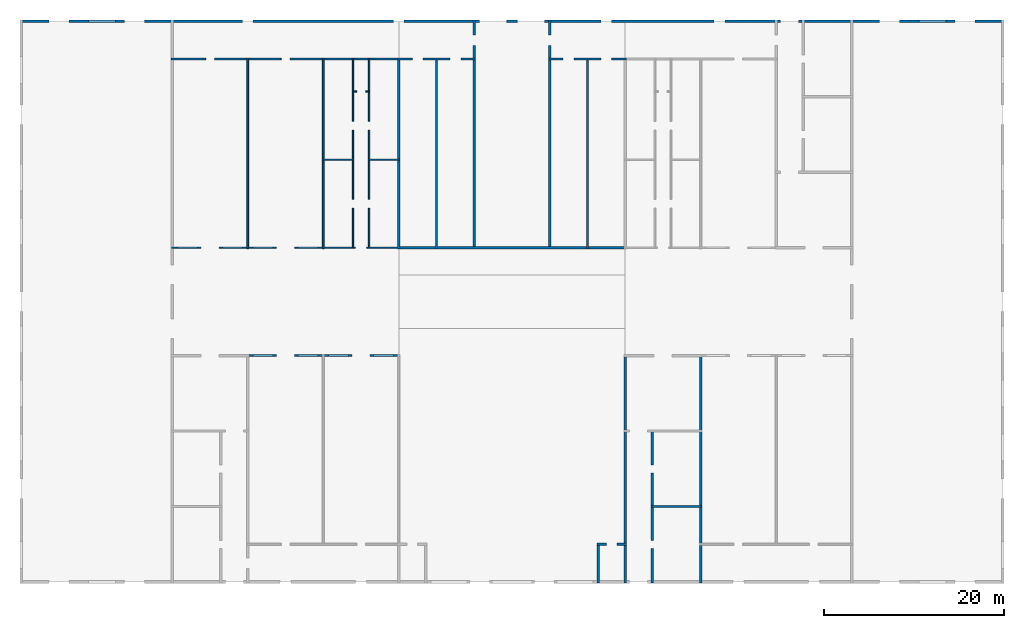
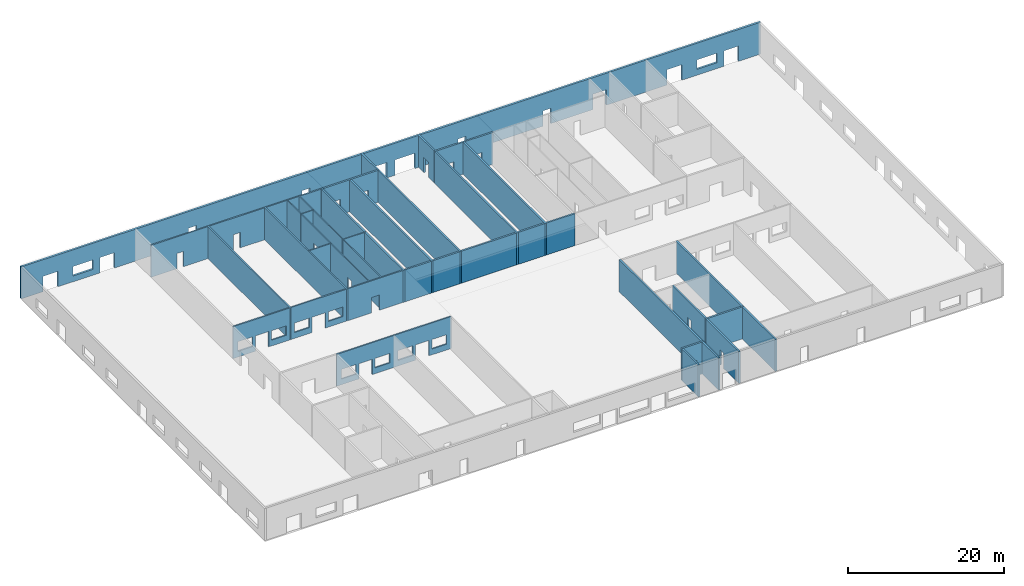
# One storey, part 2 of 3: 25 walls, 53 openings.
"""IFC4 building model written with IfcOpenShell, lengths in millimetres."""

import ifcopenshell
import ifcopenshell.guid

model = None  # the IFC model being written
_history = None  # IfcOwnerHistory: only IFC2X3 demands one
_inside = {}  # id of a spatial element -> (the spatial element, [elements in it])
_under = {}  # id of a project, library or spatial element -> (it, [spatial elements below it])
_declared = {}  # id of a project -> (the project, [libraries it declares])
_typed = {}  # id of a type object -> (the type object, [elements of that type])
_made_of = {}  # id of a material, layer set ... -> (it, [elements and type objects made of it])


def new_model(schema):
    """Start an empty IFC model of exactly this schema.

    Asked for "IFC4X3", IfcOpenShell would pick the latest addendum, in which some entities
    have other attributes; the version numbers below select the first issue.
    IFC2X3 requires an IfcOwnerHistory on every rooted entity: one is made here for all.
    """
    global model, _history
    if schema == "IFC4X3":
        model = ifcopenshell.file(schema_version=(4, 3, 0, 0))
    else:
        model = ifcopenshell.file(schema=schema)
    _inside.clear()
    _under.clear()
    _declared.clear()
    _typed.clear()
    _made_of.clear()
    _history = None
    if model.schema == "IFC2X3":
        org = make("IfcOrganization", Name="unknown")
        user = make(
            "IfcPersonAndOrganization",
            ThePerson=make("IfcPerson", FamilyName="unknown"),
            TheOrganization=org,
        )
        app = make(
            "IfcApplication",
            ApplicationDeveloper=org,
            Version="unknown",
            ApplicationFullName="unknown",
            ApplicationIdentifier="unknown",
        )
        _history = make(
            "IfcOwnerHistory",
            OwningUser=user,
            OwningApplication=app,
            ChangeAction="ADDED",
            CreationDate=0,
        )
    return model


def make(cls, **values):
    """One entity of the class cls with the attributes given. An attribute that is None is left unset."""
    return model.create_entity(
        cls, **{name: value for name, value in values.items() if value is not None}
    )


def rooted(cls, **values):
    """An entity with a GlobalId (a new one), such as an element, a storey or a relation."""
    return make(cls, GlobalId=ifcopenshell.guid.new(), OwnerHistory=_history, **values)


def si_unit(unit_type, name, prefix=None):
    """IfcSIUnit, for example si_unit("LENGTHUNIT", "METRE", prefix="MILLI")."""
    return make("IfcSIUnit", UnitType=unit_type, Prefix=prefix, Name=name)


def assignment(units):
    """IfcUnitAssignment: the units of a project."""
    return None if units is None else make("IfcUnitAssignment", Units=units)


def point(xyz):
    """IfcCartesianPoint."""
    return None if xyz is None else make("IfcCartesianPoint", Coordinates=xyz)


def direction(xyz):
    """IfcDirection."""
    return None if xyz is None else make("IfcDirection", DirectionRatios=xyz)


def frame(location, z_axis=None, x_axis=None):
    """IfcAxis2Placement3D, a coordinate frame: its origin and axes. An axis left out is left unset."""
    return make(
        "IfcAxis2Placement3D",
        Location=point(location),
        Axis=direction(z_axis),
        RefDirection=direction(x_axis),
    )


def origin_with_axes():
    """The frame at (0, 0, 0) with the z axis (0, 0, 1) and the x axis (1, 0, 0) written out."""
    return frame((0.0, 0.0, 0.0), z_axis=(0.0, 0.0, 1.0), x_axis=(1.0, 0.0, 0.0))


def place(relative_to, where):
    """IfcLocalPlacement: puts the frame where relative to a parent placement (None: the world)."""
    return make(
        "IfcLocalPlacement", PlacementRelTo=relative_to, RelativePlacement=where
    )


def context(
    kind, dimensions, precision=None, world=None, true_north=None, identifier=None
):
    """IfcGeometricRepresentationContext, for example the 3D "Model" context."""
    return make(
        "IfcGeometricRepresentationContext",
        ContextIdentifier=identifier,
        ContextType=kind,
        CoordinateSpaceDimension=dimensions,
        Precision=precision,
        WorldCoordinateSystem=world,
        TrueNorth=true_north,
    )


def subcontext(parent, identifier, kind, view, scale=None):
    """IfcGeometricRepresentationSubContext, for example "Body" below "Model"."""
    return make(
        "IfcGeometricRepresentationSubContext",
        ContextIdentifier=identifier,
        ContextType=kind,
        ParentContext=parent,
        TargetScale=scale,
        TargetView=view,
    )


def project(units=None, contexts=None):
    """IfcProject with its units and contexts."""
    return rooted(
        "IfcProject",
        Name="project",
        RepresentationContexts=contexts,
        UnitsInContext=assignment(units),
    )


def spatial(cls, under=None, at=None, **own):
    """A site, building, storey or space (cls), placed at a placement, below another one or the project."""
    s = rooted(cls, ObjectPlacement=at, **own)
    if under is not None:
        _under.setdefault(under.id(), (under, []))[1].append(s)
    return s


def point_list(points):
    """IfcCartesianPointList2D or 3D."""
    cls = (
        "IfcCartesianPointList2D" if len(points[0]) == 2 else "IfcCartesianPointList3D"
    )
    return make(cls, CoordList=points)


def indexed_curve(points, segments=None, self_intersect=None):
    """IfcIndexedPolyCurve: lines and arcs through numbered points (the first is 1)."""
    return make(
        "IfcIndexedPolyCurve",
        Points=point_list(points),
        Segments=segments,
        SelfIntersect=self_intersect,
    )


def outline(outer, holes=None, kind="AREA"):
    """IfcArbitraryClosedProfileDef: a profile drawn as a closed curve; with holes, ...WithVoids."""
    if holes is None:
        return make("IfcArbitraryClosedProfileDef", ProfileType=kind, OuterCurve=outer)
    return make(
        "IfcArbitraryProfileDefWithVoids",
        ProfileType=kind,
        OuterCurve=outer,
        InnerCurves=holes,
    )


def extrude(swept, where, along, depth):
    """IfcExtrudedAreaSolid: the profile swept, set in the frame where, extruded along a direction by depth."""
    return make(
        "IfcExtrudedAreaSolid",
        SweptArea=swept,
        Position=where,
        ExtrudedDirection=direction(along),
        Depth=depth,
    )


def shape(context_of_items, identifier, shape_type, items):
    """IfcShapeRepresentation: the items that make up one representation, for example the "Body"."""
    return make(
        "IfcShapeRepresentation",
        ContextOfItems=context_of_items,
        RepresentationIdentifier=identifier,
        RepresentationType=shape_type,
        Items=items,
    )


def made_of(thing, what):
    """Note that an element or type object is made of a material, layer set ...; save() writes the relation."""
    if what is not None:
        _made_of.setdefault(what.id(), (what, []))[1].append(thing)
    return thing


def type_object(cls, material=None, **own):
    """A type object (cls), such as IfcWallType, which elements share."""
    return made_of(rooted(cls, **own), material)


def element(
    cls,
    number,
    at=None,
    inside=None,
    cuts=None,
    type_object=None,
    material=None,
    context=None,
    identifier="Body",
    shape_type=None,
    held_by="IfcProductDefinitionShape",
    body=None,
    shapes=None,
    **own,
):
    """One element of the class cls, such as IfcWall. Its Tag is "e" and its number.

    at: its placement. inside: the storey or other place that contains it. cuts: it is an
    opening in that element (IfcRelVoidsElement). A single representation is given by context,
    identifier, shape_type and body (its items); several are given by shapes. held_by: the class
    of the entity that holds the representations. save() writes the other relations.
    """
    e = rooted(cls, Tag="e%d" % number, ObjectPlacement=at, **own)
    if body is not None:
        shapes = [shape(context, identifier, shape_type, body)]
    if shapes is not None:
        e.Representation = make(held_by, Representations=shapes)
    if inside is not None:
        _inside.setdefault(inside.id(), (inside, []))[1].append(e)
    if cuts is not None:
        rooted(
            "IfcRelVoidsElement", RelatingBuildingElement=cuts, RelatedOpeningElement=e
        )
    if type_object is not None:
        _typed.setdefault(type_object.id(), (type_object, []))[1].append(e)
    return made_of(e, material)


def aggregate(whole, parts):
    """IfcRelAggregates: a whole, such as a stair, and the parts it consists of."""
    return rooted("IfcRelAggregates", RelatingObject=whole, RelatedObjects=parts)


def save(model, path):
    """Write the relations noted so far, then the file.

    IfcRelAggregates (storeys below a building ...), IfcRelContainedInSpatialStructure (elements
    in a storey), IfcRelDefinesByType, IfcRelAssociatesMaterial and IfcRelDeclares: one each for
    every whole, place, type object, material and project.
    """
    for whole, parts in _under.values():
        aggregate(whole, parts)
    for where, things in _inside.values():
        rooted(
            "IfcRelContainedInSpatialStructure",
            RelatedElements=things,
            RelatingStructure=where,
        )
    for kind, things in _typed.values():
        rooted("IfcRelDefinesByType", RelatedObjects=things, RelatingType=kind)
    for what, things in _made_of.values():
        rooted("IfcRelAssociatesMaterial", RelatedObjects=things, RelatingMaterial=what)
    for by, libraries in _declared.values():
        rooted("IfcRelDeclares", RelatingContext=by, RelatedDefinitions=libraries)
    model.write(path)


model = new_model("IFC4")

# Units and contexts
model_context = context("Model", 3, precision=1e-05, world=origin_with_axes())
body_context = subcontext(model_context, "Body", "Model", "MODEL_VIEW")
ifc_project = project(units=[si_unit("AREAUNIT", "SQUARE_METRE"), si_unit("VOLUMEUNIT", "CUBIC_METRE"), si_unit("LENGTHUNIT", "METRE", prefix="MILLI")], contexts=[model_context])

# Site, building, storey
site = spatial("IfcSite", under=ifc_project, Name="PIN 00000000 (sample)")
building = spatial("IfcBuilding", under=site, Name="Sample Shopping Mall")
storey = spatial("IfcBuildingStorey", under=building, Name="Ground Floor", Elevation=0.0)

# Wall, openings
wall_type_1 = type_object("IfcWallType", Name="WT-300", PredefinedType="SOLIDWALL")
wall_1_placement = place(None, frame((5250.0, 77849.99999999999, 0.0), z_axis=(0.0, 0.0, 1.0), x_axis=(1.0, 0.0, 0.0)))
wall_1 = element("IfcWall", 1, at=wall_1_placement, inside=storey, type_object=wall_type_1, Name="W29", context=body_context, shape_type="SweptSolid", body=[
    extrude(outline(indexed_curve([(0.0, 0.0), (0.0, 300.0), (109499.99999999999, 300.0), (109499.99999999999, 0.0), (0.0, 0.0)], self_intersect=False)), origin_with_axes(), (0.0, 0.0, 1.0), 5000.0),
])
opening_1_placement = place(wall_1_placement, frame((3250.0, -99.9999999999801, 0.0), z_axis=(0.0, 0.0, 1.0), x_axis=(1.0, 0.0, 0.0)))
element("IfcOpeningElement", 2, at=opening_1_placement, cuts=wall_1, Name="D12-opening", context=body_context, shape_type="SweptSolid", body=[
    extrude(outline(indexed_curve([(0.0, 0.0), (0.0, 500.0), (1100.0, 500.0), (1100.0, 0.0), (0.0, 0.0)], self_intersect=False)), origin_with_axes(), (0.0, 0.0, 1.0), 2400.0),
])
opening_2_placement = place(wall_1_placement, frame((4350.000000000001, -99.9999999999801, 0.0), z_axis=(0.0, 0.0, 1.0), x_axis=(1.0, 0.0, 0.0)))
element("IfcOpeningElement", 3, at=opening_2_placement, cuts=wall_1, Name="-opening", context=body_context, shape_type="SweptSolid", body=[
    extrude(outline(indexed_curve([(0.0, 0.0), (0.0, 500.0), (1100.0, 500.0), (1100.0, 0.0), (0.0, 0.0)], self_intersect=False)), origin_with_axes(), (0.0, 0.0, 1.0), 2400.0),
])
opening_3_placement = place(wall_1_placement, frame((11649.999999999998, -99.9999999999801, 0.0), z_axis=(0.0, 0.0, 1.0), x_axis=(1.0, 0.0, 0.0)))
element("IfcOpeningElement", 4, at=opening_3_placement, cuts=wall_1, Name="D13-opening", context=body_context, shape_type="SweptSolid", body=[
    extrude(outline(indexed_curve([(0.0, 0.0), (0.0, 500.0), (1100.0, 500.0), (1100.0, 0.0), (0.0, 0.0)], self_intersect=False)), origin_with_axes(), (0.0, 0.0, 1.0), 2400.0),
])
opening_4_placement = place(wall_1_placement, frame((12750.0, -99.9999999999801, 0.0), z_axis=(0.0, 0.0, 1.0), x_axis=(1.0, 0.0, 0.0)))
element("IfcOpeningElement", 5, at=opening_4_placement, cuts=wall_1, Name="-opening", context=body_context, shape_type="SweptSolid", body=[
    extrude(outline(indexed_curve([(0.0, 0.0), (0.0, 500.0), (1100.0, 500.0), (1100.0, 0.0), (0.0, 0.0)], self_intersect=False)), origin_with_axes(), (0.0, 0.0, 1.0), 2400.0),
])
opening_5_placement = place(wall_1_placement, frame((95650.0, -99.9999999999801, 0.0), z_axis=(0.0, 0.0, 1.0), x_axis=(1.0, 0.0, 0.0)))
element("IfcOpeningElement", 6, at=opening_5_placement, cuts=wall_1, Name="D21-opening", context=body_context, shape_type="SweptSolid", body=[
    extrude(outline(indexed_curve([(0.0, 0.0), (0.0, 500.0), (1100.0, 500.0), (1100.0, 0.0), (0.0, 0.0)], self_intersect=False)), origin_with_axes(), (0.0, 0.0, 1.0), 2400.0),
])
opening_6_placement = place(wall_1_placement, frame((96750.0, -99.9999999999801, 0.0), z_axis=(0.0, 0.0, 1.0), x_axis=(1.0, 0.0, 0.0)))
element("IfcOpeningElement", 7, at=opening_6_placement, cuts=wall_1, Name="-opening", context=body_context, shape_type="SweptSolid", body=[
    extrude(outline(indexed_curve([(0.0, 0.0), (0.0, 500.0), (1100.0, 500.0), (1100.0, 0.0), (0.0, 0.0)], self_intersect=False)), origin_with_axes(), (0.0, 0.0, 1.0), 2400.0),
])
opening_7_placement = place(wall_1_placement, frame((104050.00000000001, -99.9999999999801, 0.0), z_axis=(0.0, 0.0, 1.0), x_axis=(1.0, 0.0, 0.0)))
element("IfcOpeningElement", 8, at=opening_7_placement, cuts=wall_1, Name="D22-opening", context=body_context, shape_type="SweptSolid", body=[
    extrude(outline(indexed_curve([(0.0, 0.0), (0.0, 500.0), (1100.0, 500.0), (1100.0, 0.0), (0.0, 0.0)], self_intersect=False)), origin_with_axes(), (0.0, 0.0, 1.0), 2400.0),
])
opening_8_placement = place(wall_1_placement, frame((105150.0, -99.9999999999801, 0.0), z_axis=(0.0, 0.0, 1.0), x_axis=(1.0, 0.0, 0.0)))
element("IfcOpeningElement", 9, at=opening_8_placement, cuts=wall_1, Name="-opening", context=body_context, shape_type="SweptSolid", body=[
    extrude(outline(indexed_curve([(0.0, 0.0), (0.0, 500.0), (1100.0, 500.0), (1100.0, 0.0), (0.0, 0.0)], self_intersect=False)), origin_with_axes(), (0.0, 0.0, 1.0), 2400.0),
])
opening_9_placement = place(wall_1_placement, frame((24750.0, -99.9999999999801, 0.0), z_axis=(0.0, 0.0, 1.0), x_axis=(1.0, 0.0, 0.0)))
element("IfcOpeningElement", 10, at=opening_9_placement, cuts=wall_1, Name="D27-opening", context=body_context, shape_type="SweptSolid", body=[
    extrude(outline(indexed_curve([(0.0, 0.0), (0.0, 500.0), (1200.0, 500.0), (1200.0, 0.0), (0.0, 0.0)], self_intersect=False)), origin_with_axes(), (0.0, 0.0, 1.0), 2400.0),
])
opening_10_placement = place(wall_1_placement, frame((41549.99999999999, -99.9999999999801, 0.0), z_axis=(0.0, 0.0, 1.0), x_axis=(1.0, 0.0, 0.0)))
element("IfcOpeningElement", 11, at=opening_10_placement, cuts=wall_1, Name="D28-opening", context=body_context, shape_type="SweptSolid", body=[
    extrude(outline(indexed_curve([(0.0, 0.0), (0.0, 500.0), (1200.0, 500.0), (1200.0, 0.0), (0.0, 0.0)], self_intersect=False)), origin_with_axes(), (0.0, 0.0, 1.0), 2400.0),
])
opening_11_placement = place(wall_1_placement, frame((64650.00000000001, -99.9999999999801, 0.0), z_axis=(0.0, 0.0, 1.0), x_axis=(1.0, 0.0, 0.0)))
element("IfcOpeningElement", 12, at=opening_11_placement, cuts=wall_1, Name="D29-opening", context=body_context, shape_type="SweptSolid", body=[
    extrude(outline(indexed_curve([(0.0, 0.0), (0.0, 500.0), (1200.0, 500.0), (1200.0, 0.0), (0.0, 0.0)], self_intersect=False)), origin_with_axes(), (0.0, 0.0, 1.0), 2400.0),
])
opening_12_placement = place(wall_1_placement, frame((77250.0, -99.9999999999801, 0.0), z_axis=(0.0, 0.0, 1.0), x_axis=(1.0, 0.0, 0.0)))
element("IfcOpeningElement", 13, at=opening_12_placement, cuts=wall_1, Name="D30-opening", context=body_context, shape_type="SweptSolid", body=[
    extrude(outline(indexed_curve([(0.0, 0.0), (0.0, 500.0), (1200.0, 500.0), (1200.0, 0.0), (0.0, 0.0)], self_intersect=False)), origin_with_axes(), (0.0, 0.0, 1.0), 2400.0),
])
opening_13_placement = place(wall_1_placement, frame((51150.0, -99.9999999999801, 0.0), z_axis=(0.0, 0.0, 1.0), x_axis=(1.0, 0.0, 0.0)))
element("IfcOpeningElement", 14, at=opening_13_placement, cuts=wall_1, Name="D62-opening", context=body_context, shape_type="SweptSolid", body=[
    extrude(outline(indexed_curve([(0.0, 0.0), (0.0, 500.0), (1500.0, 500.0), (1500.0, 0.0), (0.0, 0.0)], self_intersect=False)), origin_with_axes(), (0.0, 0.0, 1.0), 2400.0),
])
opening_14_placement = place(wall_1_placement, frame((52650.0, -99.9999999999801, 0.0), z_axis=(0.0, 0.0, 1.0), x_axis=(1.0, 0.0, 0.0)))
element("IfcOpeningElement", 15, at=opening_14_placement, cuts=wall_1, Name="-opening", context=body_context, shape_type="SweptSolid", body=[
    extrude(outline(indexed_curve([(0.0, 0.0), (0.0, 500.0), (1500.0, 500.0), (1500.0, 0.0), (0.0, 0.0)], self_intersect=False)), origin_with_axes(), (0.0, 0.0, 1.0), 2400.0),
])
opening_15_placement = place(wall_1_placement, frame((55350.0, -99.9999999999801, 0.0), z_axis=(0.0, 0.0, 1.0), x_axis=(1.0, 0.0, 0.0)))
element("IfcOpeningElement", 16, at=opening_15_placement, cuts=wall_1, Name="D63-opening", context=body_context, shape_type="SweptSolid", body=[
    extrude(outline(indexed_curve([(0.0, 0.0), (0.0, 500.0), (1500.0, 500.0), (1500.0, 0.0), (0.0, 0.0)], self_intersect=False)), origin_with_axes(), (0.0, 0.0, 1.0), 2400.0),
])
opening_16_placement = place(wall_1_placement, frame((56850.0, -99.9999999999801, 0.0), z_axis=(0.0, 0.0, 1.0), x_axis=(1.0, 0.0, 0.0)))
element("IfcOpeningElement", 17, at=opening_16_placement, cuts=wall_1, Name="-opening", context=body_context, shape_type="SweptSolid", body=[
    extrude(outline(indexed_curve([(0.0, 0.0), (0.0, 500.0), (1500.0, 500.0), (1500.0, 0.0), (0.0, 0.0)], self_intersect=False)), origin_with_axes(), (0.0, 0.0, 1.0), 2400.0),
])
opening_17_placement = place(wall_1_placement, frame((84650.0, -99.9999999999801, 0.0), z_axis=(0.0, 0.0, 1.0), x_axis=(1.0, 0.0, 0.0)))
element("IfcOpeningElement", 18, at=opening_17_placement, cuts=wall_1, Name="D78-opening", context=body_context, shape_type="SweptSolid", body=[
    extrude(outline(indexed_curve([(0.0, 0.0), (0.0, 500.0), (1000.0, 500.0), (1000.0, 0.0), (0.0, 0.0)], self_intersect=False)), origin_with_axes(), (0.0, 0.0, 1.0), 2400.0),
])
opening_18_placement = place(wall_1_placement, frame((85650.0, -99.9999999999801, 0.0), z_axis=(0.0, 0.0, 1.0), x_axis=(1.0, 0.0, 0.0)))
element("IfcOpeningElement", 19, at=opening_18_placement, cuts=wall_1, Name="-opening", context=body_context, shape_type="SweptSolid", body=[
    extrude(outline(indexed_curve([(0.0, 0.0), (0.0, 500.0), (1000.0, 500.0), (1000.0, 0.0), (0.0, 0.0)], self_intersect=False)), origin_with_axes(), (0.0, 0.0, 1.0), 2400.0),
])
opening_19_placement = place(wall_1_placement, frame((7650.0, -99.9999999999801, 900.0), z_axis=(0.0, 0.0, 1.0), x_axis=(1.0, 0.0, 0.0)))
element("IfcOpeningElement", 20, at=opening_19_placement, cuts=wall_1, Name="-opening", context=body_context, shape_type="SweptSolid", body=[
    extrude(outline(indexed_curve([(0.0, 0.0), (0.0, 500.0), (3000.0, 500.0), (3000.0, 0.0), (0.0, 0.0)], self_intersect=False)), origin_with_axes(), (0.0, 0.0, 1.0), 1500.0),
])
opening_20_placement = place(wall_1_placement, frame((100050.00000000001, -99.9999999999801, 900.0), z_axis=(0.0, 0.0, 1.0), x_axis=(1.0, 0.0, 0.0)))
element("IfcOpeningElement", 21, at=opening_20_placement, cuts=wall_1, Name="-opening", context=body_context, shape_type="SweptSolid", body=[
    extrude(outline(indexed_curve([(0.0, 0.0), (0.0, 500.0), (3000.0, 500.0), (3000.0, 0.0), (0.0, 0.0)], self_intersect=False)), origin_with_axes(), (0.0, 0.0, 1.0), 1500.0),
])

wall_type_2 = type_object("IfcWallType", Name="WT-200", PredefinedType="SOLIDWALL")
wall_2_placement = place(None, frame((30500.0, 40699.99999999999, 0.0), z_axis=(0.0, 0.0, 1.0), x_axis=(1.0, 0.0, 0.0)))
wall_2 = element("IfcWall", 22, at=wall_2_placement, inside=storey, type_object=wall_type_2, Name="W10", context=body_context, shape_type="SweptSolid", body=[
    extrude(outline(indexed_curve([(0.0, 0.0), (0.0, 200.0), (16999.999999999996, 200.0), (16999.999999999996, 0.0), (0.0, 0.0)], self_intersect=False)), origin_with_axes(), (0.0, 0.0, 1.0), 5000.0),
])
opening_21_placement = place(wall_2_placement, frame((3299.9999999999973, -100.00000000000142, 0.0), z_axis=(0.0, 0.0, 1.0), x_axis=(1.0, 0.0, 0.0)))
element("IfcOpeningElement", 23, at=opening_21_placement, cuts=wall_2, Name="D37-opening", context=body_context, shape_type="SweptSolid", body=[
    extrude(outline(indexed_curve([(0.0, 0.0), (0.0, 400.0), (1000.0, 400.0), (1000.0, 0.0), (0.0, 0.0)], self_intersect=False)), origin_with_axes(), (0.0, 0.0, 1.0), 2400.0),
])
opening_22_placement = place(wall_2_placement, frame((4300.000000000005, -100.00000000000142, 0.0), z_axis=(0.0, 0.0, 1.0), x_axis=(1.0, 0.0, 0.0)))
element("IfcOpeningElement", 24, at=opening_22_placement, cuts=wall_2, Name="-opening", context=body_context, shape_type="SweptSolid", body=[
    extrude(outline(indexed_curve([(0.0, 0.0), (0.0, 400.0), (1000.0, 400.0), (1000.0, 0.0), (0.0, 0.0)], self_intersect=False)), origin_with_axes(), (0.0, 0.0, 1.0), 2400.0),
])
opening_23_placement = place(wall_2_placement, frame((11700.000000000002, -100.00000000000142, 0.0), z_axis=(0.0, 0.0, 1.0), x_axis=(1.0, 0.0, 0.0)))
element("IfcOpeningElement", 25, at=opening_23_placement, cuts=wall_2, Name="D39-opening", context=body_context, shape_type="SweptSolid", body=[
    extrude(outline(indexed_curve([(0.0, 0.0), (0.0, 400.0), (1000.0, 400.0), (1000.0, 0.0), (0.0, 0.0)], self_intersect=False)), origin_with_axes(), (0.0, 0.0, 1.0), 2400.0),
])
opening_24_placement = place(wall_2_placement, frame((12700.000000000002, -100.00000000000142, 0.0), z_axis=(0.0, 0.0, 1.0), x_axis=(1.0, 0.0, 0.0)))
element("IfcOpeningElement", 26, at=opening_24_placement, cuts=wall_2, Name="-opening", context=body_context, shape_type="SweptSolid", body=[
    extrude(outline(indexed_curve([(0.0, 0.0), (0.0, 400.0), (1000.0, 400.0), (1000.0, 0.0), (0.0, 0.0)], self_intersect=False)), origin_with_axes(), (0.0, 0.0, 1.0), 2400.0),
])
opening_25_placement = place(wall_2_placement, frame((700.0000000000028, -100.00000000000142, 900.0), z_axis=(0.0, 0.0, 1.0), x_axis=(1.0, 0.0, 0.0)))
element("IfcOpeningElement", 27, at=opening_25_placement, cuts=wall_2, Name="-opening", context=body_context, shape_type="SweptSolid", body=[
    extrude(outline(indexed_curve([(0.0, 0.0), (0.0, 400.0), (2200.0, 400.0), (2200.0, 0.0), (0.0, 0.0)], self_intersect=False)), origin_with_axes(), (0.0, 0.0, 1.0), 1500.0),
])
opening_26_placement = place(wall_2_placement, frame((5700.000000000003, -100.00000000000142, 900.0), z_axis=(0.0, 0.0, 1.0), x_axis=(1.0, 0.0, 0.0)))
element("IfcOpeningElement", 28, at=opening_26_placement, cuts=wall_2, Name="-opening", context=body_context, shape_type="SweptSolid", body=[
    extrude(outline(indexed_curve([(0.0, 0.0), (0.0, 400.0), (2200.0, 400.0), (2200.0, 0.0), (0.0, 0.0)], self_intersect=False)), origin_with_axes(), (0.0, 0.0, 1.0), 1500.0),
])
opening_27_placement = place(wall_2_placement, frame((9100.000000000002, -100.00000000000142, 900.0), z_axis=(0.0, 0.0, 1.0), x_axis=(1.0, 0.0, 0.0)))
element("IfcOpeningElement", 29, at=opening_27_placement, cuts=wall_2, Name="-opening", context=body_context, shape_type="SweptSolid", body=[
    extrude(outline(indexed_curve([(0.0, 0.0), (0.0, 400.0), (2200.0, 400.0), (2200.0, 0.0), (0.0, 0.0)], self_intersect=False)), origin_with_axes(), (0.0, 0.0, 1.0), 1500.0),
])
opening_28_placement = place(wall_2_placement, frame((14100.000000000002, -100.00000000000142, 900.0), z_axis=(0.0, 0.0, 1.0), x_axis=(1.0, 0.0, 0.0)))
element("IfcOpeningElement", 30, at=opening_28_placement, cuts=wall_2, Name="-opening", context=body_context, shape_type="SweptSolid", body=[
    extrude(outline(indexed_curve([(0.0, 0.0), (0.0, 400.0), (2200.0, 400.0), (2200.0, 0.0), (0.0, 0.0)], self_intersect=False)), origin_with_axes(), (0.0, 0.0, 1.0), 1500.0),
])

wall_3_placement = place(None, frame((22099.999999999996, 52699.99999999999, 0.0), z_axis=(0.0, 0.0, 1.0), x_axis=(1.0, 0.0, 0.0)))
wall_3 = element("IfcWall", 31, at=wall_3_placement, inside=storey, type_object=wall_type_2, Name="W13", context=body_context, shape_type="SweptSolid", body=[
    extrude(outline(indexed_curve([(0.0, 0.0), (0.0, 200.0), (25399.999999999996, 200.0), (25399.999999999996, 0.0), (0.0, 0.0)], self_intersect=False)), origin_with_axes(), (0.0, 0.0, 1.0), 5000.0),
])
opening_29_placement = place(wall_3_placement, frame((3300.0000000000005, -100.00000000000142, 0.0), z_axis=(0.0, 0.0, 1.0), x_axis=(1.0, 0.0, 0.0)))
element("IfcOpeningElement", 32, at=opening_29_placement, cuts=wall_3, Name="D50-opening", context=body_context, shape_type="SweptSolid", body=[
    extrude(outline(indexed_curve([(0.0, 0.0), (0.0, 400.0), (1000.0, 400.0), (1000.0, 0.0), (0.0, 0.0)], self_intersect=False)), origin_with_axes(), (0.0, 0.0, 1.0), 2400.0),
])
opening_30_placement = place(wall_3_placement, frame((4300.000000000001, -100.00000000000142, 0.0), z_axis=(0.0, 0.0, 1.0), x_axis=(1.0, 0.0, 0.0)))
element("IfcOpeningElement", 33, at=opening_30_placement, cuts=wall_3, Name="-opening", context=body_context, shape_type="SweptSolid", body=[
    extrude(outline(indexed_curve([(0.0, 0.0), (0.0, 400.0), (1000.0, 400.0), (1000.0, 0.0), (0.0, 0.0)], self_intersect=False)), origin_with_axes(), (0.0, 0.0, 1.0), 2400.0),
])
opening_31_placement = place(wall_3_placement, frame((11699.999999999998, -100.00000000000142, 0.0), z_axis=(0.0, 0.0, 1.0), x_axis=(1.0, 0.0, 0.0)))
element("IfcOpeningElement", 34, at=opening_31_placement, cuts=wall_3, Name="D52-opening", context=body_context, shape_type="SweptSolid", body=[
    extrude(outline(indexed_curve([(0.0, 0.0), (0.0, 400.0), (1000.0, 400.0), (1000.0, 0.0), (0.0, 0.0)], self_intersect=False)), origin_with_axes(), (0.0, 0.0, 1.0), 2400.0),
])
opening_32_placement = place(wall_3_placement, frame((12700.000000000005, -100.00000000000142, 0.0), z_axis=(0.0, 0.0, 1.0), x_axis=(1.0, 0.0, 0.0)))
element("IfcOpeningElement", 35, at=opening_32_placement, cuts=wall_3, Name="-opening", context=body_context, shape_type="SweptSolid", body=[
    extrude(outline(indexed_curve([(0.0, 0.0), (0.0, 400.0), (1000.0, 400.0), (1000.0, 0.0), (0.0, 0.0)], self_intersect=False)), origin_with_axes(), (0.0, 0.0, 1.0), 2400.0),
])
opening_33_placement = place(wall_3_placement, frame((20499.999999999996, -100.00000000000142, 0.0), z_axis=(0.0, 0.0, 1.0), x_axis=(1.0, 0.0, 0.0)))
element("IfcOpeningElement", 36, at=opening_33_placement, cuts=wall_3, Name="D54-opening", context=body_context, shape_type="SweptSolid", body=[
    extrude(outline(indexed_curve([(0.0, 0.0), (0.0, 400.0), (1200.0, 400.0), (1200.0, 0.0), (0.0, 0.0)], self_intersect=False)), origin_with_axes(), (0.0, 0.0, 1.0), 2400.0),
])
opening_34_placement = place(wall_3_placement, frame((700.0000000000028, -100.00000000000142, 900.0), z_axis=(0.0, 0.0, 1.0), x_axis=(1.0, 0.0, 0.0)))
element("IfcOpeningElement", 37, at=opening_34_placement, cuts=wall_3, Name="-opening", context=body_context, shape_type="SweptSolid", body=[
    extrude(outline(indexed_curve([(0.0, 0.0), (0.0, 400.0), (2200.0, 400.0), (2200.0, 0.0), (0.0, 0.0)], self_intersect=False)), origin_with_axes(), (0.0, 0.0, 1.0), 1500.0),
])
opening_35_placement = place(wall_3_placement, frame((5699.999999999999, -100.00000000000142, 900.0), z_axis=(0.0, 0.0, 1.0), x_axis=(1.0, 0.0, 0.0)))
element("IfcOpeningElement", 38, at=opening_35_placement, cuts=wall_3, Name="-opening", context=body_context, shape_type="SweptSolid", body=[
    extrude(outline(indexed_curve([(0.0, 0.0), (0.0, 400.0), (2200.0, 400.0), (2200.0, 0.0), (0.0, 0.0)], self_intersect=False)), origin_with_axes(), (0.0, 0.0, 1.0), 1500.0),
])
opening_36_placement = place(wall_3_placement, frame((9100.000000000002, -100.00000000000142, 900.0), z_axis=(0.0, 0.0, 1.0), x_axis=(1.0, 0.0, 0.0)))
element("IfcOpeningElement", 39, at=opening_36_placement, cuts=wall_3, Name="-opening", context=body_context, shape_type="SweptSolid", body=[
    extrude(outline(indexed_curve([(0.0, 0.0), (0.0, 400.0), (2200.0, 400.0), (2200.0, 0.0), (0.0, 0.0)], self_intersect=False)), origin_with_axes(), (0.0, 0.0, 1.0), 1500.0),
])
opening_37_placement = place(wall_3_placement, frame((14100.000000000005, -100.00000000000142, 900.0), z_axis=(0.0, 0.0, 1.0), x_axis=(1.0, 0.0, 0.0)))
element("IfcOpeningElement", 40, at=opening_37_placement, cuts=wall_3, Name="-opening", context=body_context, shape_type="SweptSolid", body=[
    extrude(outline(indexed_curve([(0.0, 0.0), (0.0, 400.0), (2200.0, 400.0), (2200.0, 0.0), (0.0, 0.0)], self_intersect=False)), origin_with_axes(), (0.0, 0.0, 1.0), 1500.0),
])

wall_4_placement = place(None, frame((22099.999999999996, 73700.0, 0.0), z_axis=(0.0, 0.0, 1.0), x_axis=(1.0, 0.0, 0.0)))
wall_4 = element("IfcWall", 41, at=wall_4_placement, inside=storey, type_object=wall_type_2, Name="W25", context=body_context, shape_type="SweptSolid", body=[
    extrude(outline(indexed_curve([(0.0, 0.0), (0.0, 200.0), (25399.999999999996, 200.0), (25399.999999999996, 0.0), (0.0, 0.0)], self_intersect=False)), origin_with_axes(), (0.0, 0.0, 1.0), 5000.0),
])
opening_38_placement = place(wall_4_placement, frame((3800.0000000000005, -99.99999999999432, 0.0), z_axis=(0.0, 0.0, 1.0), x_axis=(1.0, 0.0, 0.0)))
element("IfcOpeningElement", 42, at=opening_38_placement, cuts=wall_4, Name="-opening", context=body_context, shape_type="SweptSolid", body=[
    extrude(outline(indexed_curve([(0.0, 0.0), (0.0, 400.0), (1000.0, 400.0), (1000.0, 0.0), (0.0, 0.0)], self_intersect=False)), origin_with_axes(), (0.0, 0.0, 1.0), 2400.0),
])
opening_39_placement = place(wall_4_placement, frame((12200.000000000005, -99.99999999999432, 0.0), z_axis=(0.0, 0.0, 1.0), x_axis=(1.0, 0.0, 0.0)))
element("IfcOpeningElement", 43, at=opening_39_placement, cuts=wall_4, Name="-opening", context=body_context, shape_type="SweptSolid", body=[
    extrude(outline(indexed_curve([(0.0, 0.0), (0.0, 400.0), (1000.0, 400.0), (1000.0, 0.0), (0.0, 0.0)], self_intersect=False)), origin_with_axes(), (0.0, 0.0, 1.0), 2400.0),
])

# Walls
for number, where, z_axis, x_axis, name in (
    (44, (30700.000000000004, 52699.99999999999, 0.0), (0.0, 0.0, 1.0), (6.123233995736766e-17, 1.0, 0.0), "W34"),
    (45, (39100.0, 52699.99999999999, 0.0), (0.0, 0.0, 1.0), (6.123233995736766e-17, 1.0, 0.0), "W36"),
):
    element("IfcWall", number, at=place(None, frame(where, z_axis=z_axis, x_axis=x_axis)), inside=storey, type_object=wall_type_2, Name=name, context=body_context, shape_type="SweptSolid", body=[
        extrude(outline(indexed_curve([(0.0, 0.0), (0.0, 200.0), (21200.0, 200.0), (21200.0, 0.0), (0.0, 0.0)], self_intersect=False)), origin_with_axes(), (0.0, 0.0, 1.0), 5000.0),
    ])

# Wall, opening
wall_type_3 = type_object("IfcWallType", Name="WT-250", PredefinedType="SOLIDWALL")
wall_5_placement = place(None, frame((69475.0, 19675.0, 0.0), z_axis=(0.0, 0.0, 1.0), x_axis=(1.0, 0.0, 0.0)))
wall_5 = element("IfcWall", 46, at=wall_5_placement, inside=storey, type_object=wall_type_3, Name="W3", context=body_context, shape_type="SweptSolid", body=[
    extrude(outline(indexed_curve([(0.0, 0.0), (0.0, 250.0), (3250.0, 250.0), (3250.0, 0.0), (0.0, 0.0)], self_intersect=False)), origin_with_axes(), (0.0, 0.0, 1.0), 5000.0),
])
opening_40_placement = place(wall_5_placement, frame((1024.9999999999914, -100.00000000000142, 0.0), z_axis=(0.0, 0.0, 1.0), x_axis=(1.0, 0.0, 0.0)))
element("IfcOpeningElement", 47, at=opening_40_placement, cuts=wall_5, Name="D02-opening", context=body_context, shape_type="SweptSolid", body=[
    extrude(outline(indexed_curve([(0.0, 0.0), (0.0, 450.0), (1200.0, 450.0), (1200.0, 0.0), (0.0, 0.0)], self_intersect=False)), origin_with_axes(), (0.0, 0.0, 1.0), 2400.0),
])

# Walls
wall_6_placement = place(None, frame((75475.0, 23875.0, 0.0), z_axis=(0.0, 0.0, 1.0), x_axis=(1.0, 0.0, 0.0)))
element("IfcWall", 48, at=wall_6_placement, inside=storey, type_object=wall_type_3, Name="W6", context=body_context, shape_type="SweptSolid", body=[
    extrude(outline(indexed_curve([(0.0, 0.0), (0.0, 250.0), (5650.0000000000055, 250.0), (5650.0000000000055, 0.0), (0.0, 0.0)], self_intersect=False)), origin_with_axes(), (0.0, 0.0, 1.0), 5000.0),
])
wall_7_placement = place(None, frame((47275.0, 52674.99999999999, 0.0), z_axis=(0.0, 0.0, 1.0), x_axis=(1.0, 0.0, 0.0)))
element("IfcWall", 49, at=wall_7_placement, inside=storey, type_object=wall_type_3, Name="W14", context=body_context, shape_type="SweptSolid", body=[
    extrude(outline(indexed_curve([(0.0, 0.0), (0.0, 250.0), (25449.999999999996, 250.0), (25449.999999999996, 0.0), (0.0, 0.0)], self_intersect=False)), origin_with_axes(), (0.0, 0.0, 1.0), 5000.0),
])

# Wall, openings
wall_8_placement = place(None, frame((47275.0, 73675.0, 0.0), z_axis=(0.0, 0.0, 1.0), x_axis=(1.0, 0.0, 0.0)))
wall_8 = element("IfcWall", 50, at=wall_8_placement, inside=storey, type_object=wall_type_3, Name="W26", context=body_context, shape_type="SweptSolid", body=[
    extrude(outline(indexed_curve([(0.0, 0.0), (0.0, 250.0), (8649.999999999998, 250.0), (8649.999999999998, 0.0), (0.0, 0.0)], self_intersect=False)), origin_with_axes(), (0.0, 0.0, 1.0), 5000.0),
])
opening_41_placement = place(wall_8_placement, frame((1625.0, -99.99999999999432, 0.0), z_axis=(0.0, 0.0, 1.0), x_axis=(1.0, 0.0, 0.0)))
element("IfcOpeningElement", 51, at=opening_41_placement, cuts=wall_8, Name="-opening", context=body_context, shape_type="SweptSolid", body=[
    extrude(outline(indexed_curve([(0.0, 0.0), (0.0, 450.0), (1200.0, 450.0), (1200.0, 0.0), (0.0, 0.0)], self_intersect=False)), origin_with_axes(), (0.0, 0.0, 1.0), 2400.0),
])
opening_42_placement = place(wall_8_placement, frame((5825.000000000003, -99.99999999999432, 0.0), z_axis=(0.0, 0.0, 1.0), x_axis=(1.0, 0.0, 0.0)))
element("IfcOpeningElement", 52, at=opening_42_placement, cuts=wall_8, Name="-opening", context=body_context, shape_type="SweptSolid", body=[
    extrude(outline(indexed_curve([(0.0, 0.0), (0.0, 450.0), (1200.0, 450.0), (1200.0, 0.0), (0.0, 0.0)], self_intersect=False)), origin_with_axes(), (0.0, 0.0, 1.0), 2400.0),
])

wall_9_placement = place(None, frame((64075.0, 73675.0, 0.0), z_axis=(0.0, 0.0, 1.0), x_axis=(1.0, 0.0, 0.0)))
wall_9 = element("IfcWall", 53, at=wall_9_placement, inside=storey, type_object=wall_type_3, Name="W27", context=body_context, shape_type="SweptSolid", body=[
    extrude(outline(indexed_curve([(0.0, 0.0), (0.0, 250.0), (8649.99999999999, 250.0), (8649.99999999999, 0.0), (0.0, 0.0)], self_intersect=False)), origin_with_axes(), (0.0, 0.0, 1.0), 5000.0),
])
opening_43_placement = place(wall_9_placement, frame((1625.0, -99.99999999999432, 0.0), z_axis=(0.0, 0.0, 1.0), x_axis=(1.0, 0.0, 0.0)))
element("IfcOpeningElement", 54, at=opening_43_placement, cuts=wall_9, Name="-opening", context=body_context, shape_type="SweptSolid", body=[
    extrude(outline(indexed_curve([(0.0, 0.0), (0.0, 450.0), (1200.0, 450.0), (1200.0, 0.0), (0.0, 0.0)], self_intersect=False)), origin_with_axes(), (0.0, 0.0, 1.0), 2400.0),
])
opening_44_placement = place(wall_9_placement, frame((5825.000000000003, -99.99999999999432, 0.0), z_axis=(0.0, 0.0, 1.0), x_axis=(1.0, 0.0, 0.0)))
element("IfcOpeningElement", 55, at=opening_44_placement, cuts=wall_9, Name="-opening", context=body_context, shape_type="SweptSolid", body=[
    extrude(outline(indexed_curve([(0.0, 0.0), (0.0, 450.0), (1200.0, 450.0), (1200.0, 0.0), (0.0, 0.0)], self_intersect=False)), origin_with_axes(), (0.0, 0.0, 1.0), 2400.0),
])

# Walls
for number, where, z_axis, x_axis, name in (
    (56, (47525.0, 52674.99999999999, 0.0), (0.0, 0.0, 1.0), (6.123233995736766e-17, 1.0, 0.0), "W41"),
    (57, (51725.0, 52674.99999999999, 0.0), (0.0, 0.0, 1.0), (6.123233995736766e-17, 1.0, 0.0), "W43"),
):
    element("IfcWall", number, at=place(None, frame(where, z_axis=z_axis, x_axis=x_axis)), inside=storey, type_object=wall_type_3, Name=name, context=body_context, shape_type="SweptSolid", body=[
        extrude(outline(indexed_curve([(0.0, 0.0), (0.0, 250.0), (21250.0, 250.0), (21250.0, 0.0), (0.0, 0.0)], self_intersect=False)), origin_with_axes(), (0.0, 0.0, 1.0), 5000.0),
    ])

# Wall, opening
wall_10_placement = place(None, frame((55924.99999999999, 52674.99999999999, 0.0), z_axis=(0.0, 0.0, 1.0), x_axis=(6.123233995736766e-17, 1.0, 0.0)))
wall_10 = element("IfcWall", 58, at=wall_10_placement, inside=storey, type_object=wall_type_3, Name="W44", context=body_context, shape_type="SweptSolid", body=[
    extrude(outline(indexed_curve([(0.0, 0.0), (0.0, 250.0), (25450.000000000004, 250.0), (25450.000000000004, 0.0), (0.0, 0.0)], self_intersect=False)), origin_with_axes(), (0.0, 0.0, 1.0), 5000.0),
])
opening_45_placement = place(wall_10_placement, frame((22625.0, -99.99999999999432, 0.0), z_axis=(0.0, 0.0, 1.0), x_axis=(1.0, 0.0, 0.0)))
element("IfcOpeningElement", 59, at=opening_45_placement, cuts=wall_10, Name="-opening", context=body_context, shape_type="SweptSolid", body=[
    extrude(outline(indexed_curve([(0.0, 0.0), (0.0, 450.0), (1200.0, 450.0), (1200.0, 0.0), (0.0, 0.0)], self_intersect=False)), origin_with_axes(), (0.0, 0.0, 1.0), 2400.0),
])

wall_11_placement = place(None, frame((64325.0, 52674.99999999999, 0.0), z_axis=(0.0, 0.0, 1.0), x_axis=(6.123233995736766e-17, 1.0, 0.0)))
wall_11 = element("IfcWall", 60, at=wall_11_placement, inside=storey, type_object=wall_type_3, Name="W45", context=body_context, shape_type="SweptSolid", body=[
    extrude(outline(indexed_curve([(0.0, 0.0), (0.0, 250.0), (25450.000000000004, 250.0), (25450.000000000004, 0.0), (0.0, 0.0)], self_intersect=False)), origin_with_axes(), (0.0, 0.0, 1.0), 5000.0),
])
opening_46_placement = place(wall_11_placement, frame((22624.999999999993, -99.99999999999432, 0.0), z_axis=(0.0, 0.0, 1.0), x_axis=(1.0, 0.0, 0.0)))
element("IfcOpeningElement", 61, at=opening_46_placement, cuts=wall_11, Name="-opening", context=body_context, shape_type="SweptSolid", body=[
    extrude(outline(indexed_curve([(0.0, 0.0), (0.0, 450.0), (1200.0, 450.0), (1200.0, 0.0), (0.0, 0.0)], self_intersect=False)), origin_with_axes(), (0.0, 0.0, 1.0), 2400.0),
])

# Walls
wall_12_placement = place(None, frame((68525.0, 52674.99999999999, 0.0), z_axis=(0.0, 0.0, 1.0), x_axis=(6.123233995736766e-17, 1.0, 0.0)))
element("IfcWall", 62, at=wall_12_placement, inside=storey, type_object=wall_type_3, Name="W46", context=body_context, shape_type="SweptSolid", body=[
    extrude(outline(indexed_curve([(0.0, 0.0), (0.0, 250.0), (21250.0, 250.0), (21250.0, 0.0), (0.0, 0.0)], self_intersect=False)), origin_with_axes(), (0.0, 0.0, 1.0), 5000.0),
])
wall_13_placement = place(None, frame((69725.0, 15475.0, 0.0), z_axis=(0.0, 0.0, 1.0), x_axis=(6.123233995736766e-17, 1.0, 0.0)))
element("IfcWall", 63, at=wall_13_placement, inside=storey, type_object=wall_type_3, Name="W47", context=body_context, shape_type="SweptSolid", body=[
    extrude(outline(indexed_curve([(0.0, 0.0), (0.0, 250.0), (4450.000000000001, 250.0), (4450.000000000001, 0.0), (0.0, 0.0)], self_intersect=False)), origin_with_axes(), (0.0, 0.0, 1.0), 5000.0),
])
wall_14_placement = place(None, frame((72725.0, 15475.0, 0.0), z_axis=(0.0, 0.0, 1.0), x_axis=(6.123233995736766e-17, 1.0, 0.0)))
element("IfcWall", 64, at=wall_14_placement, inside=storey, type_object=wall_type_3, Name="W48", context=body_context, shape_type="SweptSolid", body=[
    extrude(outline(indexed_curve([(0.0, 0.0), (0.0, 250.0), (25449.999999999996, 250.0), (25449.999999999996, 0.0), (0.0, 0.0)], self_intersect=False)), origin_with_axes(), (0.0, 0.0, 1.0), 5000.0),
])

# Wall, openings
wall_15_placement = place(None, frame((75725.0, 15475.0, 0.0), z_axis=(0.0, 0.0, 1.0), x_axis=(6.123233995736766e-17, 1.0, 0.0)))
wall_15 = element("IfcWall", 65, at=wall_15_placement, inside=storey, type_object=wall_type_3, Name="W50", context=body_context, shape_type="SweptSolid", body=[
    extrude(outline(indexed_curve([(0.0, 0.0), (0.0, 250.0), (17049.999999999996, 250.0), (17049.999999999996, 0.0), (0.0, 0.0)], self_intersect=False)), origin_with_axes(), (0.0, 0.0, 1.0), 5000.0),
])
opening_47_placement = place(wall_15_placement, frame((12274.999999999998, -99.9999999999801, 0.0), z_axis=(0.0, 0.0, 1.0), x_axis=(1.0, 0.0, 0.0)))
element("IfcOpeningElement", 66, at=opening_47_placement, cuts=wall_15, Name="-opening", context=body_context, shape_type="SweptSolid", body=[
    extrude(outline(indexed_curve([(0.0, 0.0), (0.0, 450.0), (900.0, 450.0), (900.0, 0.0), (0.0, 0.0)], self_intersect=False)), origin_with_axes(), (0.0, 0.0, 1.0), 2400.0),
])
opening_48_placement = place(wall_15_placement, frame((3875.0, -99.9999999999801, 0.0), z_axis=(0.0, 0.0, 1.0), x_axis=(1.0, 0.0, 0.0)))
element("IfcOpeningElement", 67, at=opening_48_placement, cuts=wall_15, Name="-opening", context=body_context, shape_type="SweptSolid", body=[
    extrude(outline(indexed_curve([(0.0, 0.0), (0.0, 450.0), (900.0, 450.0), (900.0, 0.0), (0.0, 0.0)], self_intersect=False)), origin_with_axes(), (0.0, 0.0, 1.0), 2400.0),
])

# Walls
wall_16_placement = place(None, frame((81125.0, 15475.0, 0.0), z_axis=(0.0, 0.0, 1.0), x_axis=(6.123233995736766e-17, 1.0, 0.0)))
element("IfcWall", 68, at=wall_16_placement, inside=storey, type_object=wall_type_3, Name="W53", context=body_context, shape_type="SweptSolid", body=[
    extrude(outline(indexed_curve([(0.0, 0.0), (0.0, 250.0), (25449.999999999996, 250.0), (25449.999999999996, 0.0), (0.0, 0.0)], self_intersect=False)), origin_with_axes(), (0.0, 0.0, 1.0), 5000.0),
])
wall_type_4 = type_object("IfcWallType", Name="WT-150", PredefinedType="SOLIDWALL")
for number, where, z_axis, x_axis, name in (
    (69, (38924.99999999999, 62525.0, 0.0), (0.0, 0.0, 1.0), (1.0, 0.0, 0.0), "W18"),
    (70, (44025.0, 62525.0, 0.0), (0.0, 0.0, 1.0), (1.0, 0.0, 0.0), "W19"),
):
    element("IfcWall", number, at=place(None, frame(where, z_axis=z_axis, x_axis=x_axis)), inside=storey, type_object=wall_type_4, Name=name, context=body_context, shape_type="SweptSolid", body=[
        extrude(outline(indexed_curve([(0.0, 0.0), (0.0, 150.0), (3449.999999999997, 150.0), (3449.999999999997, 0.0), (0.0, 0.0)], self_intersect=False)), origin_with_axes(), (0.0, 0.0, 1.0), 5000.0),
    ])

# Wall, opening
wall_17_placement = place(None, frame((42224.99999999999, 70125.0, 0.0), z_axis=(0.0, 0.0, 1.0), x_axis=(1.0, 0.0, 0.0)))
wall_17 = element("IfcWall", 71, at=wall_17_placement, inside=storey, type_object=wall_type_4, Name="W23", context=body_context, shape_type="SweptSolid", body=[
    extrude(outline(indexed_curve([(0.0, 0.0), (0.0, 150.0), (1950.000000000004, 150.0), (1950.000000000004, 0.0), (0.0, 0.0)], self_intersect=False)), origin_with_axes(), (0.0, 0.0, 1.0), 5000.0),
])
opening_49_placement = place(wall_17_placement, frame((475.0000000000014, -99.99999999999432, 0.0), z_axis=(0.0, 0.0, 1.0), x_axis=(1.0, 0.0, 0.0)))
element("IfcOpeningElement", 72, at=opening_49_placement, cuts=wall_17, Name="-opening", context=body_context, shape_type="SweptSolid", body=[
    extrude(outline(indexed_curve([(0.0, 0.0), (0.0, 349.99999999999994), (1000.0, 349.99999999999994), (1000.0, 0.0), (0.0, 0.0)], self_intersect=False)), origin_with_axes(), (0.0, 0.0, 1.0), 2400.0),
])

# Wall, openings
wall_18_placement = place(None, frame((42375.0, 52724.99999999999, 0.0), z_axis=(0.0, 0.0, 1.0), x_axis=(6.123233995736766e-17, 1.0, 0.0)))
wall_18 = element("IfcWall", 73, at=wall_18_placement, inside=storey, type_object=wall_type_4, Name="W37", context=body_context, shape_type="SweptSolid", body=[
    extrude(outline(indexed_curve([(0.0, 0.0), (0.0, 150.0), (21149.999999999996, 150.0), (21149.999999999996, 0.0), (0.0, 0.0)], self_intersect=False)), origin_with_axes(), (0.0, 0.0, 1.0), 5000.0),
])
opening_50_placement = place(wall_18_placement, frame((4475.000000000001, -99.99999999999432, 0.0), z_axis=(0.0, 0.0, 1.0), x_axis=(1.0, 0.0, 0.0)))
element("IfcOpeningElement", 74, at=opening_50_placement, cuts=wall_18, Name="-opening", context=body_context, shape_type="SweptSolid", body=[
    extrude(outline(indexed_curve([(0.0, 0.0), (0.0, 349.99999999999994), (1000.0, 349.99999999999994), (1000.0, 0.0), (0.0, 0.0)], self_intersect=False)), origin_with_axes(), (0.0, 0.0, 1.0), 2400.0),
])
opening_51_placement = place(wall_18_placement, frame((13174.999999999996, -99.99999999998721, 0.0), z_axis=(0.0, 0.0, 1.0), x_axis=(1.0, 0.0, 0.0)))
element("IfcOpeningElement", 75, at=opening_51_placement, cuts=wall_18, Name="-opening", context=body_context, shape_type="SweptSolid", body=[
    extrude(outline(indexed_curve([(0.0, 0.0), (0.0, 349.99999999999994), (1000.0, 349.99999999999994), (1000.0, 0.0), (0.0, 0.0)], self_intersect=False)), origin_with_axes(), (0.0, 0.0, 1.0), 2400.0),
])

wall_19_placement = place(None, frame((44175.0, 52724.99999999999, 0.0), z_axis=(0.0, 0.0, 1.0), x_axis=(6.123233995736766e-17, 1.0, 0.0)))
wall_19 = element("IfcWall", 76, at=wall_19_placement, inside=storey, type_object=wall_type_4, Name="W38", context=body_context, shape_type="SweptSolid", body=[
    extrude(outline(indexed_curve([(0.0, 0.0), (0.0, 150.0), (21149.999999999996, 150.0), (21149.999999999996, 0.0), (0.0, 0.0)], self_intersect=False)), origin_with_axes(), (0.0, 0.0, 1.0), 5000.0),
])
opening_52_placement = place(wall_19_placement, frame((4475.000000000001, -99.99999999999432, 0.0), z_axis=(0.0, 0.0, 1.0), x_axis=(1.0, 0.0, 0.0)))
element("IfcOpeningElement", 77, at=opening_52_placement, cuts=wall_19, Name="-opening", context=body_context, shape_type="SweptSolid", body=[
    extrude(outline(indexed_curve([(0.0, 0.0), (0.0, 349.99999999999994), (1000.0, 349.99999999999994), (1000.0, 0.0), (0.0, 0.0)], self_intersect=False)), origin_with_axes(), (0.0, 0.0, 1.0), 2400.0),
])
opening_53_placement = place(wall_19_placement, frame((13174.999999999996, -99.99999999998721, 0.0), z_axis=(0.0, 0.0, 1.0), x_axis=(1.0, 0.0, 0.0)))
element("IfcOpeningElement", 78, at=opening_53_placement, cuts=wall_19, Name="-opening", context=body_context, shape_type="SweptSolid", body=[
    extrude(outline(indexed_curve([(0.0, 0.0), (0.0, 349.99999999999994), (1000.0, 349.99999999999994), (1000.0, 0.0), (0.0, 0.0)], self_intersect=False)), origin_with_axes(), (0.0, 0.0, 1.0), 2400.0),
])

save(model, "model.ifc")
